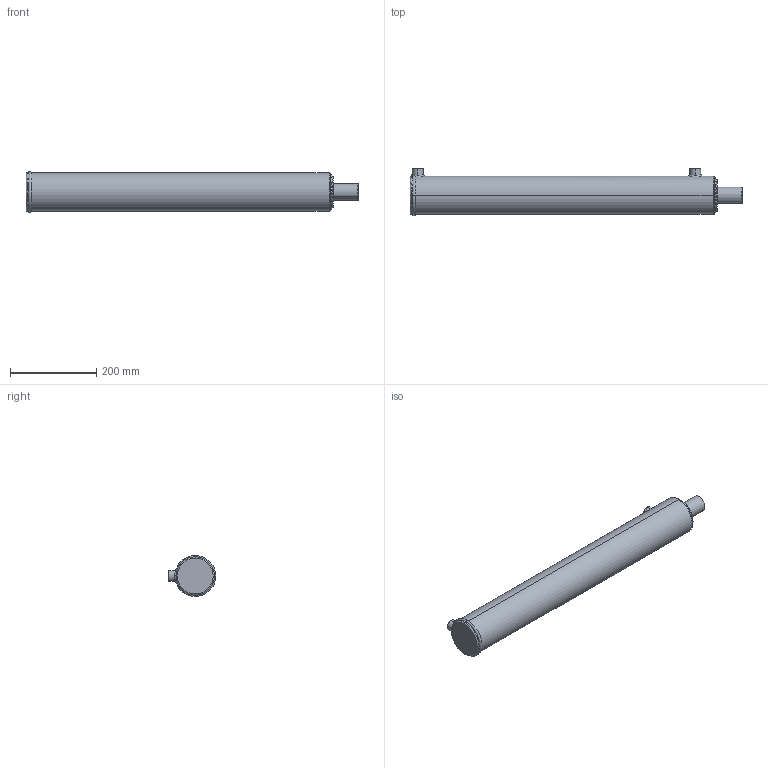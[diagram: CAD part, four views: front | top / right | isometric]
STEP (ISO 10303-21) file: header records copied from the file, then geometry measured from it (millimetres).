
FILE_DESCRIPTION (( 'STEP AP203' ), '1' );
FILE_NAME ('BL300150x610 (24).STEP', '2014-11-23T23:03:08', ( '' ), ( '' ), 'SwSTEP 2.0', 'SolidWorks 2014', '' );
FILE_SCHEMA (( 'CONFIG_CONTROL_DESIGN' ));
Length unit declared in the file: millimetre
Products named in the file (3): Spare_3x24; BL300150x610 (24); BL body 3_3x24
Assembly tree (2 placements, depth 2):
  BL300150x610 (24)
    BL body 3_3x24
    Spare_3x24
Bounding box: 768 x 109.9 x 94.9 mm (x, y, z)
Volume: 4999120.8 mm3; surface area: 340145.8 mm2
Topology: 2 solids, 2 shells, 88 faces, 205 edges, 126 vertices
Faces by surface type: cylinder 32, plane 20, torus 17, bspline 11, cone 8
Entity records: 5992 total; most frequent: CARTESIAN_POINT 3745, DIRECTION 420, ORIENTED_EDGE 402, EDGE_CURVE 201, AXIS2_PLACEMENT_3D 181, VERTEX_POINT 126, EDGE_LOOP 101, CIRCLE 99
